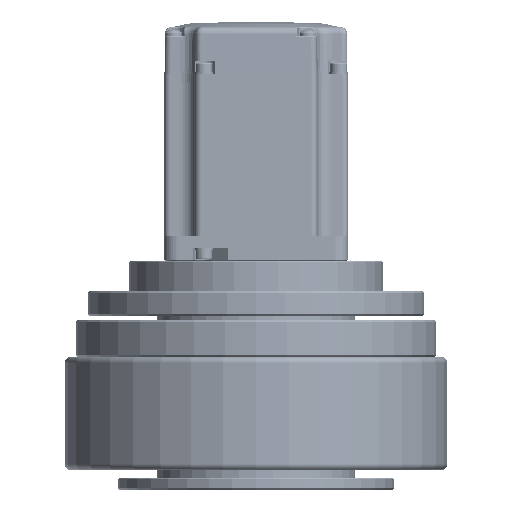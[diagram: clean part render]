
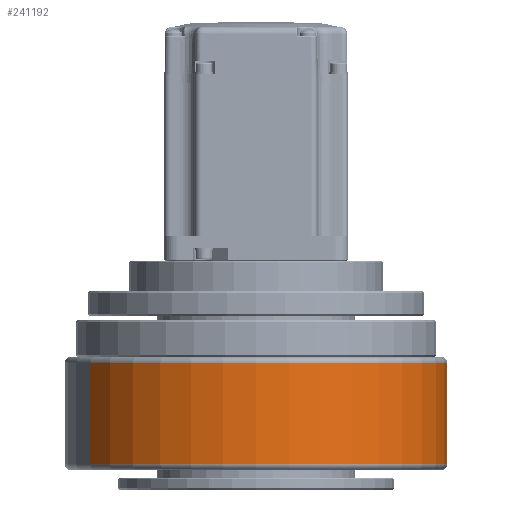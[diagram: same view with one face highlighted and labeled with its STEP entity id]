
A CAD part, front view. The second image highlights one B-rep face of the part: STEP entity #241192.
In plain terms, the highlighted cylindrical face has radius 62.5 mm (diameter 125 mm), a partial arc.
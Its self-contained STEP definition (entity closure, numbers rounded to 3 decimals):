
#236942=CARTESIAN_POINT('',(35.,0.,0.));
#236943=DIRECTION('',(1.,0.,0.));
#236944=DIRECTION('',(0.,0.,-1.));
#236945=AXIS2_PLACEMENT_3D('',#236942,#236943,#236944);
#236957=DIRECTION('',(1.,0.,0.));
#236958=VECTOR('',#236957,33.);
#236959=CARTESIAN_POINT('',(2.,0.,-62.5));
#236960=LINE('',#236959,#236958);
#236961=DIRECTION('',(1.,0.,0.));
#236962=VECTOR('',#236961,33.);
#236963=CARTESIAN_POINT('',(2.,0.,62.5));
#236964=LINE('',#236963,#236962);
#236965=CARTESIAN_POINT('',(2.,0.,0.));
#236966=DIRECTION('',(-1.,0.,0.));
#236967=DIRECTION('',(0.,0.,1.));
#236968=AXIS2_PLACEMENT_3D('',#236965,#236966,#236967);
#239820=CARTESIAN_POINT('',(35.,0.,62.5));
#239822=VERTEX_POINT('',#239820);
#240022=CARTESIAN_POINT('',(2.,0.,62.5));
#240023=VERTEX_POINT('',#240022);
#240049=CARTESIAN_POINT('',(2.,0.,-62.5));
#240050=VERTEX_POINT('',#240049);
#240166=CARTESIAN_POINT('',(35.,0.,-62.5));
#240167=VERTEX_POINT('',#240166);
#241180=CARTESIAN_POINT('',(0.,0.,0.));
#241181=DIRECTION('',(-1.,0.,0.));
#241182=DIRECTION('',(0.,0.,1.));
#241183=AXIS2_PLACEMENT_3D('',#241180,#241181,#241182);
#241184=CYLINDRICAL_SURFACE('',#241183,62.5);
#241185=ORIENTED_EDGE('',*,*,#241145,.T.);
#241186=ORIENTED_EDGE('',*,*,#241174,.F.);
#241188=ORIENTED_EDGE('',*,*,#241187,.T.);
#241189=ORIENTED_EDGE('',*,*,#241170,.T.);
#241190=EDGE_LOOP('',(#241185,#241186,#241188,#241189));
#241191=FACE_OUTER_BOUND('',#241190,.F.);
#241192=ADVANCED_FACE('',(#241191),#241184,.T.);
#236946=CIRCLE('',#236945,62.5);
#236969=CIRCLE('',#236968,62.5);
#241145=EDGE_CURVE('',#240167,#239822,#236946,.T.);
#241170=EDGE_CURVE('',#240050,#240167,#236960,.T.);
#241174=EDGE_CURVE('',#240023,#239822,#236964,.T.);
#241187=EDGE_CURVE('',#240023,#240050,#236969,.T.);
